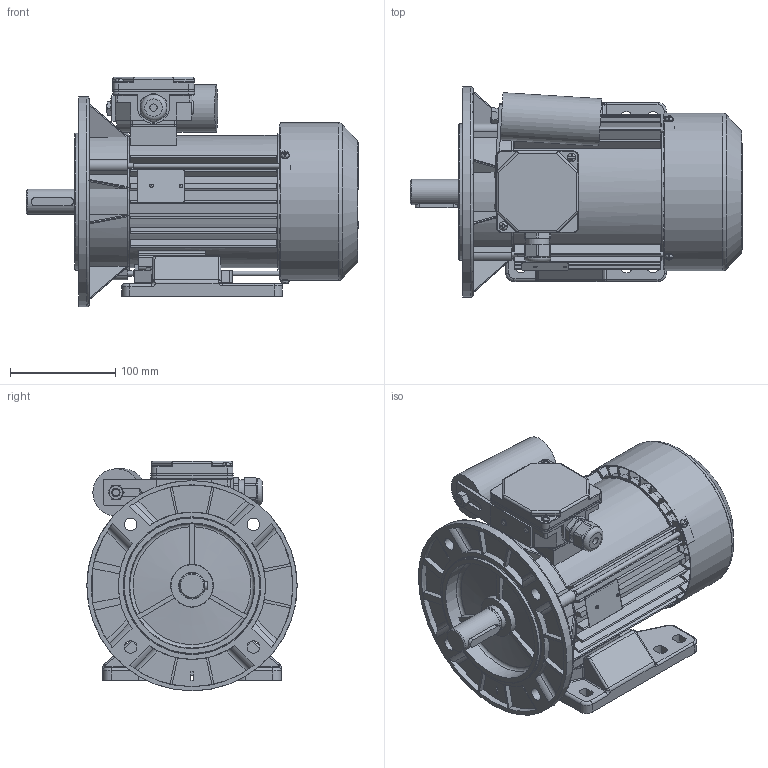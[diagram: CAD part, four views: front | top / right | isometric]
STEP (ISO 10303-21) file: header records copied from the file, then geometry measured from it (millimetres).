
FILE_DESCRIPTION( ( 'Unknown' ), '1' );
FILE_NAME( 'G:/Poczta Tk-1/STP/w.m.90/SEh90/SELh90-.S.stp', 'Unknown', ( 'K. Szlosek' ), ( 'BESEL S.A.' ), 'PSStep 17.0.49', 'Unknown', ' ' );
FILE_SCHEMA( ( 'AUTOMOTIVE_DESIGN { 1 0 10303 214 1 1 1 1 }' ) );
Length unit declared in the file: millimetre
Products named in the file (47): skrznka zaciskowa jednofazowa ; K4-2820 Uszczelka nr 2 Sh71,80; K2-1131 Podstawa skrzynki zaciskowej jednofazowa; K4-2999 Uchwyt kondensatora; Nit 4x12 po skróceniu; nakrętka M8; K4-0898 Tulejka uszczelniająca; Dławnica M20x1,5; K2-0860 Pokrywka skrzynki zaciskowej; Assem1; K1-1257 Kadłub S(E,M)h80-C i D; K2-1715 Przewietrznik; Wpust A8x7x40; K3-7808 Wał Sh90-.S; Wkręt samogwintujący M4x12; Tabliczka znamionowa 32x44; Kondensator zb 25-31,5uF Comar; K4-4489 Osłona przewietrznika Sh80,90-A,C; K4-2320 Uszczelka nr 1 Sh71,80; K2-2027 Tarcza łożyskowa P S(E,M)h80-.A,C; Wkręt samogwintujący M4x8; Łożysko 6205; Łożysko 6204; Śruba ściągająca E_M5x168; Nitokołek A 2x6; K3-7772 Tarcza kołnierzowa 90 B5 Sh; K1-1130 Łapa wymiar 90
Assembly tree (53 placements, depth 3):
  Assem1
    K1-1257 Kadłub S(E,M)h80-C i D
    K2-1715 Przewietrznik
    Wpust A8x7x40
    K3-7808 Wał Sh90-.S
    Wkręt samogwintujący M4x12  x2
    Tabliczka znamionowa 32x44
    Kondensator zb 25-31,5uF Comar
    K4-4489 Osłona przewietrznika Sh80,90-A,C
    K4-2320 Uszczelka nr 1 Sh71,80
    K2-2027 Tarcza łożyskowa P S(E,M)h80-.A,C
    Wkręt samogwintujący M4x8  x3
    Łożysko 6205
    Łożysko 6205
    Łożysko 6205
    Łożysko 6205
    Łożysko 6205
    Łożysko 6205
    Łożysko 6205
    Łożysko 6205
    Łożysko 6205
    Łożysko 6205
    Łożysko 6205
    Łożysko 6205
    Łożysko 6204
    Łożysko 6204
    Łożysko 6204
    Łożysko 6204
    Łożysko 6204
    Łożysko 6204
    Łożysko 6204
    Łożysko 6204
    Łożysko 6204
    Łożysko 6204
    Śruba ściągająca E_M5x168  x3
    Nitokołek A 2x6  x2
    K3-7772 Tarcza kołnierzowa 90 B5 Sh
    K1-1130 Łapa wymiar 90
    skrznka zaciskowa jednofazowa 
      K4-2820 Uszczelka nr 2 Sh71,80
      K2-1131 Podstawa skrzynki zaciskowej jednofazowa
      K4-2999 Uchwyt kondensatora
      Nit 4x12 po skróceniu  x2
      nakrętka M8
      K4-0898 Tulejka uszczelniająca
      Dławnica M20x1,5
      K2-0860 Pokrywka skrzynki zaciskowej
Bounding box: 315.8 x 200 x 218.5 mm (x, y, z)
Volume: 1344055.6 mm3; surface area: 735466.6 mm2
Topology: 52 solids, 70 shells, 3165 faces, 8751 edges, 5655 vertices
Faces by surface type: plane 1598, cylinder 1094, cone 159, bspline 153, torus 109, sphere 52
Full cylindrical faces by diameter (mm): 2 x2, 2.4 x2, 3 x2, 3.7 x11, 4 x7, 4.134 x3, 4.3 x2, 4.5 x3, 4.6 x3, 4.8 x4, 5 x7, 5.5 x3, 6 x2, 6.5 x5, 6.647 x1, 7 x1, 8 x10, 10 x2, 12 x4, 18.376 x1, 18.38 x1, 19.3 x1, 19.5 x2, 19.6 x1, 19.9 x1, 20 x3, 20.4 x1, 22.3 x1, 23.6 x1, 24 x1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
Entity records: 144211 total; most frequent: CARTESIAN_POINT 44745, ORIENTED_EDGE 15888, DIRECTION 15678, EDGE_CURVE 7944, AXIS2_PLACEMENT_3D 5697, VERTEX_POINT 5363, LINE 4284, VECTOR 4284
